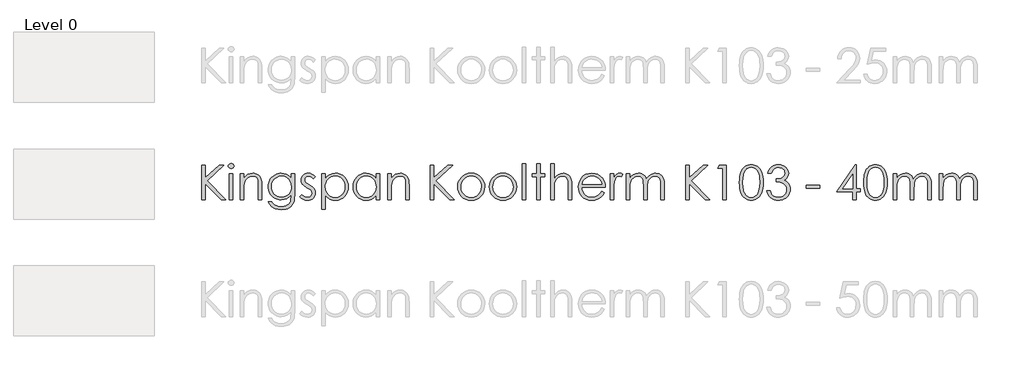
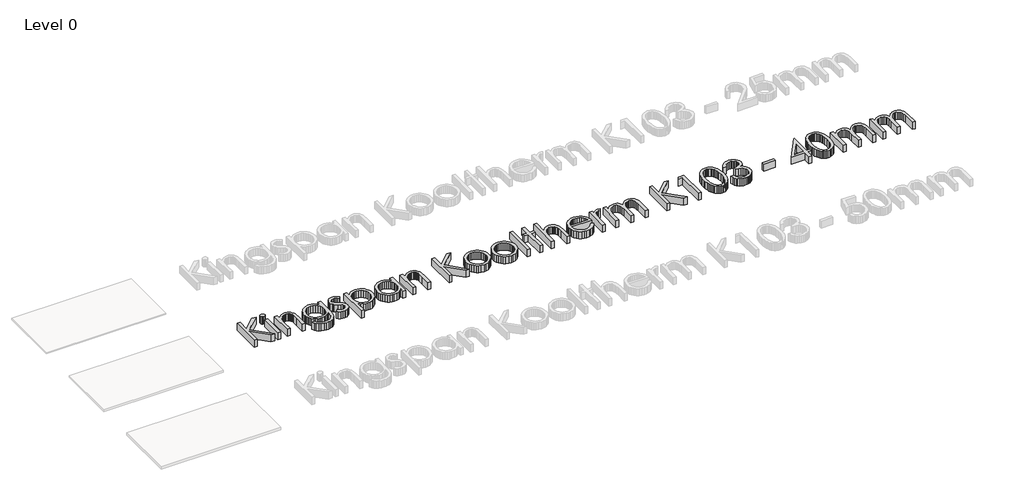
# One storey, part 12 of 13: 1 proxy.
"""IFC4 building model written with IfcOpenShell, lengths in millimetres."""

from ifc_helpers import new_model, si_unit, origin, origin_with_axes, place, context, project, spatial, polyline, outline, extrude, element, save

model = new_model("IFC4")

# Units and contexts
model_context = context("Model", 3, world=origin())
ifc_project = project(units=[si_unit("LENGTHUNIT", "METRE", prefix="MILLI")], contexts=[model_context])

# Site, building, storey
site = spatial("IfcSite", under=ifc_project)
building = spatial("IfcBuilding", under=site)
storey = spatial("IfcBuildingStorey", under=building, Name="Level 0", Elevation=0.0)

# Proxy
placement = place(None, origin())
element("IfcBuildingElementProxy", 1, Name="600mm KI_CenturyGothic", ObjectType="600mm KI_CenturyGothic", at=placement, inside=storey, context=model_context, shape_type="SweptSolid", body=[
    extrude(outline(polyline([(-3852.2663848, 3900.8965983), (-3792.944575, 3900.8965983), (-3792.944575, 3681.683973), (-3555.1938841, 3900.8965983), (-3471.6181051, 3900.8965983), (-3760.9664119, 3633.9484541), (-3441.9572002, 3307.6785001), (-3520.8984627, 3307.6785001), (-3792.944575, 3585.9039675), (-3792.944575, 3307.6785001), (-3852.2663848, 3307.6785001), (-3852.2663848, 3900.8965983)])), origin_with_axes(), (0.0, 0.0, 1.0), 150.0),
    extrude(outline(polyline([(-3348.1854852, 3930.5575033), (-3329.145347, 3927.2747208), (-3313.1176445, 3917.4263735), (-3302.226531, 3902.9821307), (-3298.5961598, 3885.911662), (-3302.226531, 3869.0729191), (-3313.1176445, 3854.7059183), (-3329.145347, 3844.857571), (-3348.1854852, 3841.5747885), (-3366.9938975, 3844.857571), (-3382.9443581, 3854.7059183), (-3393.8354717, 3869.0729191), (-3397.4658428, 3885.911662), (-3393.8354717, 3902.9821307), (-3382.9443581, 3917.4263735), (-3366.9938975, 3927.2747208), (-3348.1854852, 3930.5575033)])), origin_with_axes(), (0.0, 0.0, 1.0), 150.0),
    extrude(outline(polyline([(-3377.6919062, 3752.5920738), (-3318.3700964, 3752.5920738), (-3318.3700964, 3307.6785001), (-3377.6919062, 3307.6785001), (-3377.6919062, 3752.5920738)])), origin_with_axes(), (0.0, 0.0, 1.0), 150.0),
    extrude(outline(polyline([(-3189.8395084, 3752.5920738), (-3130.5176986, 3752.5920738), (-3130.5176986, 3673.4963274), (-3096.9946967, 3713.0055796), (-3060.0730495, 3740.696815), (-3019.7141359, 3757.0334853), (-2975.879335, 3762.4790421), (-2953.4357238, 3760.9004099), (-2932.2955704, 3756.1645135), (-2912.4588747, 3748.2713528), (-2893.9256368, 3737.2209277), (-2877.212412, 3723.4960006), (-2862.835756, 3707.5793333), (-2841.0921499, 3669.1707787), (-2833.6238199, 3644.7912914), (-2828.2892984, 3614.4448643), (-2824.0216812, 3535.8511905), (-2824.0216812, 3307.6785001), (-2883.343491, 3307.6785001), (-2883.343491, 3520.8662542), (-2883.343491, 3623.907002), (-2884.7290183, 3644.7043943), (-2889.8125035, 3662.7596977), (-2898.2849788, 3678.0729123), (-2910.1464442, 3690.644038), (-2924.7403432, 3700.4441091), (-2941.4101193, 3707.4441599), (-2980.977303, 3713.0442006), (-3005.3471351, 3710.8862539), (-3028.4038541, 3704.4124138), (-3050.1474602, 3693.6226803), (-3070.5779533, 3678.5170534), (-3088.6622225, 3660.2348518), (-3103.3671568, 3639.915394), (-3114.6927562, 3617.55868), (-3122.6390208, 3593.1647099), (-3128.5480292, 3546.0857475), (-3130.5176986, 3471.5858965), (-3130.5176986, 3307.6785001), (-3189.8395084, 3307.6785001), (-3189.8395084, 3752.5920738)])), origin_with_axes(), (0.0, 0.0, 1.0), 150.0),
    extrude(outline(polyline([(-2319.7862977, 3752.5920738), (-2260.4644879, 3752.5920738), (-2260.4644879, 3401.604699), (-2264.5196897, 3321.3503235), (-2269.588692, 3290.5500999), (-2276.6852953, 3265.9678526), (-2289.9371156, 3237.3545415), (-2307.2924139, 3212.2267729), (-2328.7511904, 3190.5845469), (-2354.3134448, 3172.4278634), (-2383.3226209, 3158.0656902), (-2415.122162, 3147.8069951), (-2449.7120682, 3141.651778), (-2487.0923395, 3139.6000389), (-2541.0458345, 3143.6166198), (-2589.206184, 3155.6663624), (-2630.260275, 3174.4940853), (-2662.8949946, 3198.8446068), (-2690.2000204, 3232.1938144), (-2715.2650299, 3278.0175952), (-2655.94322, 3278.0175952), (-2642.4355358, 3256.848476), (-2627.0933555, 3238.6048954), (-2609.9166791, 3223.2868532), (-2590.9055067, 3210.8943494), (-2569.7894914, 3201.3308318), (-2546.2982864, 3194.4997477), (-2492.1903075, 3189.0348805), (-2438.5071593, 3194.3645743), (-2415.083541, 3201.0266916), (-2393.93856, 3210.3536559), (-2359.6624492, 3234.3952097), (-2336.8567664, 3263.8823202), (-2329.3884364, 3282.5217658), (-2324.0539149, 3306.2302137), (-2319.7862977, 3368.8541165), (-2319.7862977, 3391.5632468), (-2354.757586, 3355.7809182), (-2396.6420279, 3329.3834852), (-2443.392712, 3313.1047464), (-2492.9627269, 3307.6785001), (-2522.4063889, 3309.5757553), (-2550.9521133, 3315.2675207), (-2578.5999001, 3324.7537964), (-2605.3497494, 3338.0345825), (-2630.1540674, 3354.5257366), (-2651.9652601, 3373.6431168), (-2670.7833277, 3395.3867228), (-2686.6082702, 3419.7565549), (-2699.1456025, 3446.0719183), (-2708.1008399, 3473.6521184), (-2713.4739824, 3502.4971553), (-2715.2650299, 3532.607029), (-2713.3967404, 3562.8955247), (-2707.7918722, 3592.1219437), (-2698.4504251, 3620.286286), (-2685.3723991, 3647.3885517), (-2668.9971079, 3672.5742517), (-2649.7638648, 3694.9888971), (-2627.67267, 3714.632488), (-2602.7235235, 3731.5050242), (-2575.9833294, 3745.056157), (-2548.5189922, 3754.7355376), (-2520.3305117, 3760.543166), (-2491.4178881, 3762.4790421), (-2444.5320306, 3757.5355579), (-2400.8903346, 3742.7051055), (-2359.6045177, 3716.1338782), (-2319.7862977, 3675.9680694), (-2319.7862977, 3752.5920738)]), holes=[polyline([(-2484.1571458, 3713.0442006), (-2529.0154023, 3707.0193293), (-2570.5908765, 3688.9447153), (-2606.2187212, 3660.2300242), (-2633.2340897, 3622.2849212), (-2650.2659375, 3578.0059792), (-2655.94322, 3530.2897708), (-2653.0080263, 3494.3770964), (-2644.2024452, 3461.7182387), (-2629.5264766, 3432.3131977), (-2608.9801206, 3406.1619734), (-2583.7606272, 3384.703197), (-2555.0652466, 3369.3754996), (-2522.8939786, 3360.1788811), (-2487.2468234, 3357.1133416), (-2451.3244937, 3360.154743), (-2419.1001219, 3369.2789472), (-2390.573708, 3384.4859541), (-2365.7452519, 3405.7757637), (-2345.6382095, 3432.0187128), (-2331.2760363, 3462.0851379), (-2322.6587323, 3495.975039), (-2319.7862977, 3533.6884162), (-2325.0773706, 3582.3894593), (-2340.9505892, 3625.6063246), (-2366.4983608, 3661.8327944), (-2400.8130926, 3689.5626508), (-2440.9982119, 3707.1738131), (-2484.1571458, 3713.0442006)])]), origin_with_axes(), (0.0, 0.0, 1.0), 150.0),
    extrude(outline(polyline([(-1904.5336289, 3701.3034257), (-1940.9918246, 3663.609359), (-1962.9575012, 3685.2371022), (-1984.6721416, 3700.6854902), (-2006.1357456, 3709.954523), (-2027.3483133, 3713.0442006), (-2052.181597, 3708.3710632), (-2073.2300256, 3694.3516511), (-2087.5970264, 3674.1142629), (-2092.3860267, 3650.787197), (-2088.4466878, 3629.2366958), (-2076.628671, 3608.7675817), (-2052.0657341, 3586.599145), (-2010.2006027, 3560.877579), (-1958.3326401, 3528.0111336), (-1939.8428507, 3512.1861912), (-1926.315856, 3496.7667689), (-1909.9791857, 3464.0934284), (-1904.5336289, 3427.5579908), (-1906.9474396, 3401.4115941), (-1914.1888714, 3377.3507299), (-1926.2579245, 3355.375398), (-1943.1545989, 3335.4855985), (-1963.6719892, 3318.9944443), (-1986.6031901, 3307.2150485), (-2011.9482016, 3300.147411), (-2039.7070237, 3297.7915318), (-2077.4397114, 3301.6729393), (-2113.3958344, 3313.3171617), (-2145.4512394, 3331.7972958), (-2171.4817731, 3356.1864383), (-2135.7959969, 3396.6612148), (-2114.0041146, 3375.0334717), (-2091.5749863, 3359.5850837), (-2068.5086121, 3350.3160509), (-2044.8049918, 3347.2263733), (-2013.637869, 3352.8650349), (-1987.4914724, 3369.7810198), (-1969.7644472, 3394.3439566), (-1963.8554388, 3422.9234744), (-1967.7561567, 3446.7139919), (-1979.4583106, 3467.7237995), (-2005.0253927, 3489.4287846), (-2050.2119275, 3516.2317378), (-2099.762632, 3546.8967879), (-2117.441381, 3562.0555186), (-2130.3890611, 3577.0983864), (-2146.3781427, 3609.2310334), (-2151.7078365, 3645.689229), (-2149.5305794, 3669.7356104), (-2142.9988078, 3691.6674937), (-2132.1125219, 3711.4848789), (-2116.8717217, 3729.187766), (-2098.309518, 3743.7526993), (-2077.4590218, 3754.1562231), (-2054.3202332, 3760.3983373), (-2028.8931521, 3762.4790421), (-1997.9481, 3758.6555661), (-1966.9064954, 3747.185138), (-1935.7683384, 3728.0677579), (-1904.5336289, 3701.3034257)])), origin_with_axes(), (0.0, 0.0, 1.0), 150.0),
    extrude(outline(polyline([(-1795.7769776, 3752.5920738), (-1736.4551678, 3752.5920738), (-1736.4551678, 3671.4880369), (-1700.9238754, 3711.7310876), (-1660.4490989, 3740.0788795), (-1614.9922173, 3756.8790014), (-1564.5146096, 3762.4790421), (-1520.0618732, 3758.2403906), (-1478.9305402, 3745.5244363), (-1441.1206107, 3724.331179), (-1406.6320845, 3694.6606189), (-1377.9077381, 3659.0231189), (-1357.3903478, 3619.929042), (-1345.0799137, 3577.3783884), (-1340.9764356, 3531.371158), (-1345.0412927, 3484.4708176), (-1357.235864, 3441.2491246), (-1377.5601494, 3401.706079), (-1406.014149, 3365.8416808), (-1440.2130179, 3336.0697406), (-1477.7719111, 3314.8040691), (-1518.6908288, 3302.0446661), (-1562.9697708, 3297.7915318), (-1612.6170277, 3303.256399), (-1658.0545988, 3319.6510008), (-1699.3211052, 3346.8980951), (-1736.4551678, 3384.92044), (-1736.4551678, 3149.4870072), (-1795.7769776, 3149.4870072), (-1795.7769776, 3752.5920738)]), holes=[polyline([(-1568.5311905, 3713.0442006), (-1602.5852307, 3709.7469353), (-1633.8392507, 3699.8551393), (-1662.2932503, 3683.3688128), (-1687.9472295, 3660.2879556), (-1709.1694525, 3632.3022353), (-1724.3281832, 3601.1013192), (-1733.4234216, 3566.6852074), (-1736.4551678, 3529.0538998), (-1731.048232, 3480.1983728), (-1714.8274246, 3436.5180558), (-1688.5265441, 3399.6736505), (-1652.8793888, 3371.3258586), (-1611.4390881, 3353.2512446), (-1567.7587711, 3347.2263733), (-1525.0632888, 3353.2898656), (-1485.0326535, 3371.4803424), (-1450.2544701, 3400.5812433), (-1423.3163435, 3439.3760076), (-1406.05277, 3484.0411593), (-1400.2982454, 3530.7532225), (-1405.9948385, 3577.6970114), (-1423.0846177, 3622.1304373), (-1449.8103289, 3660.4810605), (-1484.414718, 3689.1764411), (-1524.7157001, 3707.0772607), (-1568.5311905, 3713.0442006)])]), origin_with_axes(), (0.0, 0.0, 1.0), 150.0),
    extrude(outline(polyline([(-807.0801472, 3752.5920738), (-807.0801472, 3307.6785001), (-866.401957, 3307.6785001), (-866.401957, 3383.5300851), (-903.4780882, 3345.6815345), (-944.8797679, 3318.9558233), (-990.4525125, 3303.0826047), (-1040.0418379, 3297.7915318), (-1084.3159523, 3302.0446661), (-1125.2203871, 3314.8040691), (-1162.7551422, 3336.0697406), (-1196.9202178, 3365.8416808), (-1225.340424, 3401.706079), (-1245.6405713, 3441.2491246), (-1257.8206597, 3484.4708176), (-1261.8806892, 3531.371158), (-1257.7820388, 3577.3783884), (-1245.4860875, 3619.929042), (-1224.9928353, 3659.0231189), (-1196.3022822, 3694.6606189), (-1161.8475494, 3724.331179), (-1124.061758, 3745.5244363), (-1082.9449079, 3758.2403906), (-1038.4969991, 3762.4790421), (-987.7490446, 3756.8790014), (-942.0990581, 3740.0788795), (-921.2051134, 3727.3918909), (-901.6242816, 3711.7310876), (-866.401957, 3671.4880369), (-866.401957, 3752.5920738), (-807.0801472, 3752.5920738)]), holes=[polyline([(-1034.3259343, 3713.0442006), (-1078.1414247, 3707.0772607), (-1118.4424068, 3689.1764411), (-1153.0467959, 3660.4810605), (-1179.7725071, 3622.1304373), (-1196.8622863, 3577.6970114), (-1202.5588794, 3530.7532225), (-1196.8043548, 3484.0411593), (-1179.5407813, 3439.3760076), (-1152.6026548, 3400.5812433), (-1117.8244713, 3371.4803424), (-1077.6779731, 3353.2898656), (-1034.6349021, 3347.2263733), (-991.0125165, 3353.2512446), (-949.7460102, 3371.3258586), (-914.2726493, 3399.6736505), (-888.0297002, 3436.5180558), (-871.8088928, 3480.1983728), (-866.401957, 3529.0538998), (-869.4337032, 3566.6852074), (-878.5289416, 3601.1013192), (-893.6876723, 3632.3022353), (-914.9098953, 3660.2879556), (-940.5638746, 3683.3688128), (-969.0178742, 3699.8551393), (-1000.2718941, 3709.7469353), (-1034.3259343, 3713.0442006)])]), origin_with_axes(), (0.0, 0.0, 1.0), 150.0),
    extrude(outline(polyline([(-668.662591, 3752.5920738), (-609.3407811, 3752.5920738), (-609.3407811, 3673.4963274), (-575.8177792, 3713.0055796), (-538.896132, 3740.696815), (-498.5372184, 3757.0334853), (-454.7024175, 3762.4790421), (-432.2588064, 3760.9004099), (-411.1186529, 3756.1645135), (-391.2819572, 3748.2713528), (-372.7487193, 3737.2209277), (-356.0354946, 3723.4960006), (-341.6588385, 3707.5793333), (-319.9152324, 3669.1707787), (-312.4469024, 3644.7912914), (-307.1123809, 3614.4448643), (-302.8447637, 3535.8511905), (-302.8447637, 3307.6785001), (-362.1665735, 3307.6785001), (-362.1665735, 3520.8662542), (-362.1665735, 3623.907002), (-363.5521008, 3644.7043943), (-368.635586, 3662.7596977), (-377.1080613, 3678.0729123), (-388.9695267, 3690.644038), (-403.5634257, 3700.4441091), (-420.2332018, 3707.4441599), (-459.8003855, 3713.0442006), (-484.1702176, 3710.8862539), (-507.2269366, 3704.4124138), (-528.9705427, 3693.6226803), (-549.4010358, 3678.5170534), (-567.485305, 3660.2348518), (-582.1902393, 3639.915394), (-593.5158387, 3617.55868), (-601.4621033, 3593.1647099), (-607.3711117, 3546.0857475), (-609.3407811, 3471.5858965), (-609.3407811, 3307.6785001), (-668.662591, 3307.6785001), (-668.662591, 3752.5920738)])), origin_with_axes(), (0.0, 0.0, 1.0), 150.0),
    extrude(outline(polyline([(62.9730635, 3900.8965983), (122.2948734, 3900.8965983), (122.2948734, 3681.683973), (360.0455643, 3900.8965983), (443.6213432, 3900.8965983), (154.2730365, 3633.9484541), (473.2822481, 3307.6785001), (394.3409856, 3307.6785001), (122.2948734, 3585.9039675), (122.2948734, 3307.6785001), (62.9730635, 3307.6785001), (62.9730635, 3900.8965983)])), origin_with_axes(), (0.0, 0.0, 1.0), 150.0),
    extrude(outline(polyline([(760.1588128, 3762.4790421), (809.4681362, 3757.8541809), (854.3553585, 3743.9795975), (894.8204798, 3720.8552917), (930.8635, 3688.4812637), (957.7630055, 3653.2492839), (976.9769381, 3614.908316), (988.5052976, 3573.45836), (992.3480841, 3528.8994159), (988.283227, 3484.0846079), (976.0886558, 3442.1760279), (955.7643703, 3403.1736759), (927.3103707, 3367.0775519), (892.4742558, 3336.7649181), (853.0036246, 3315.1130368), (808.8984769, 3302.1219081), (760.1588128, 3297.7915318), (711.2839754, 3302.1219081), (667.0822753, 3315.1130368), (627.5537126, 3336.7649181), (592.6982872, 3367.0775519), (564.2442876, 3403.1736759), (543.9200022, 3442.1760279), (531.7254309, 3484.0846079), (527.6605738, 3528.8994159), (531.5033603, 3573.2652551), (543.0317198, 3614.5993482), (562.2456524, 3652.9016951), (589.145158, 3688.1722959), (625.2074886, 3720.6814974), (665.7305413, 3743.9023555), (710.7143161, 3757.8348705), (760.1588128, 3762.4790421)]), holes=[polyline([(760.004329, 3713.0442006), (725.7282181, 3709.6696933), (693.9624704, 3699.5461716), (664.7070856, 3682.6736353), (637.962064, 3659.0520846), (615.6584538, 3630.6415336), (599.7273037, 3599.4019965), (590.1686137, 3565.3334734), (586.9823836, 3528.4359643), (592.7948396, 3480.7004454), (610.2322075, 3436.3635719), (637.5758543, 3398.5729529), (673.1071466, 3370.4761972), (714.6439998, 3353.0388293), (760.004329, 3347.2263733), (805.3646581, 3353.0388293), (846.9015113, 3370.4761972), (882.4328037, 3398.5729529), (909.7764504, 3436.3635719), (927.2138183, 3480.7004454), (933.0262743, 3528.4359643), (929.8255614, 3565.3334734), (920.2234227, 3599.4019965), (904.2198583, 3630.6415336), (881.8148681, 3659.0520846), (854.9974321, 3682.6736353), (825.7565303, 3699.5461716), (794.0921625, 3709.6696933), (760.004329, 3713.0442006)])]), origin_with_axes(), (0.0, 0.0, 1.0), 150.0),
    extrude(outline(polyline([(1303.9420695, 3762.4790421), (1353.2513929, 3757.8541809), (1398.1386152, 3743.9795975), (1438.6037365, 3720.8552917), (1474.6467567, 3688.4812637), (1501.5462622, 3653.2492839), (1520.7601948, 3614.908316), (1532.2885543, 3573.45836), (1536.1313408, 3528.8994159), (1532.0664837, 3484.0846079), (1519.8719125, 3442.1760279), (1499.547627, 3403.1736759), (1471.0936274, 3367.0775519), (1436.2575126, 3336.7649181), (1396.7868813, 3315.1130368), (1352.6817336, 3302.1219081), (1303.9420695, 3297.7915318), (1255.0672321, 3302.1219081), (1210.865532, 3315.1130368), (1171.3369693, 3336.7649181), (1136.4815439, 3367.0775519), (1108.0275443, 3403.1736759), (1087.7032589, 3442.1760279), (1075.5086876, 3484.0846079), (1071.4438305, 3528.8994159), (1075.286617, 3573.2652551), (1086.8149766, 3614.5993482), (1106.0289091, 3652.9016951), (1132.9284147, 3688.1722959), (1168.9907453, 3720.6814974), (1209.5137981, 3743.9023555), (1254.4975728, 3757.8348705), (1303.9420695, 3762.4790421)]), holes=[polyline([(1303.7875857, 3713.0442006), (1269.5114748, 3709.6696933), (1237.7457271, 3699.5461716), (1208.4903423, 3682.6736353), (1181.7453207, 3659.0520846), (1159.4417105, 3630.6415336), (1143.5105604, 3599.4019965), (1133.9518704, 3565.3334734), (1130.7656404, 3528.4359643), (1136.5780963, 3480.7004454), (1154.0154643, 3436.3635719), (1181.359111, 3398.5729529), (1216.8904033, 3370.4761972), (1258.4272565, 3353.0388293), (1303.7875857, 3347.2263733), (1349.1479149, 3353.0388293), (1390.684768, 3370.4761972), (1426.2160604, 3398.5729529), (1453.5597071, 3436.3635719), (1470.997075, 3480.7004454), (1476.809531, 3528.4359643), (1473.6088181, 3565.3334734), (1464.0066795, 3599.4019965), (1448.003115, 3630.6415336), (1425.5981249, 3659.0520846), (1398.7806889, 3682.6736353), (1369.539787, 3699.5461716), (1337.8754193, 3709.6696933), (1303.7875857, 3713.0442006)])]), origin_with_axes(), (0.0, 0.0, 1.0), 150.0),
    extrude(outline(polyline([(1635.0010238, 3920.6705349), (1694.3228337, 3920.6705349), (1694.3228337, 3307.6785001), (1635.0010238, 3307.6785001), (1635.0010238, 3920.6705349)])), origin_with_axes(), (0.0, 0.0, 1.0), 150.0),
    extrude(outline(polyline([(1882.1752314, 3920.6705349), (1941.4970413, 3920.6705349), (1941.4970413, 3752.5920738), (2020.5927877, 3752.5920738), (2020.5927877, 3703.1572323), (1941.4970413, 3703.1572323), (1941.4970413, 3307.6785001), (1882.1752314, 3307.6785001), (1882.1752314, 3703.1572323), (1803.079485, 3703.1572323), (1803.079485, 3752.5920738), (1882.1752314, 3752.5920738), (1882.1752314, 3920.6705349)])), origin_with_axes(), (0.0, 0.0, 1.0), 150.0),
    extrude(outline(polyline([(2119.4624707, 3920.6705349), (2178.7842806, 3920.6705349), (2178.7842806, 3671.9514886), (2212.5583188, 3711.6538456), (2249.6151394, 3739.9243956), (2289.9161216, 3756.8403805), (2333.4226442, 3762.4790421), (2355.8662553, 3760.9004099), (2377.0064088, 3756.1645135), (2396.8431044, 3748.2713528), (2415.3763424, 3737.2209277), (2432.0895671, 3723.5104834), (2446.4662232, 3707.6372648), (2468.2098293, 3669.4025045), (2475.6781593, 3645.0954316), (2481.0126808, 3614.7345216), (2485.280298, 3535.8511905), (2485.280298, 3307.6785001), (2425.9584882, 3307.6785001), (2425.9584882, 3520.8662542), (2424.5681332, 3585.247411), (2420.3970685, 3623.907002), (2406.879729, 3662.7596977), (2397.1665551, 3678.0729123), (2385.4837117, 3690.644038), (2371.840854, 3700.4441091), (2356.2476374, 3707.4441599), (2319.2101273, 3713.0442006), (2296.3416854, 3710.8862539), (2274.6994594, 3704.4124138), (2254.2834492, 3693.6226803), (2235.0936547, 3678.5170534), (2218.1052556, 3660.2348518), (2204.2934312, 3639.915394), (2193.6581816, 3617.55868), (2186.1995068, 3593.1647099), (2180.6380871, 3546.3174733), (2178.7842806, 3471.5858965), (2178.7842806, 3307.6785001), (2119.4624707, 3307.6785001), (2119.4624707, 3920.6705349)])), origin_with_axes(), (0.0, 0.0, 1.0), 150.0),
    extrude(outline(polyline([(2991.0605203, 3455.9830247), (3038.950523, 3430.8021523), (3013.3255094, 3388.9177104), (2984.0315038, 3355.9547125), (2950.952643, 3330.8703926), (2913.9730643, 3312.6219843), (2872.4941426, 3301.4991449), (2825.9172528, 3297.7915318), (2774.4258447, 3302.2232881), (2728.8627554, 3315.518557), (2689.227985, 3337.6773385), (2655.5215335, 3368.6996326), (2628.6220279, 3405.3026569), (2609.4080954, 3444.2036288), (2597.8797358, 3485.4025485), (2594.0369493, 3528.8994159), (2597.3197318, 3569.7797126), (2607.1680791, 3608.381372), (2623.5819913, 3644.7043943), (2646.5614684, 3678.7487793), (2682.7493173, 3715.3807692), (2724.5758277, 3741.5464764), (2772.0409998, 3757.2459007), (2825.1448334, 3762.4790421), (2879.7935059, 3757.1107273), (2928.6490329, 3741.0057828), (2971.7114143, 3714.1642087), (3008.9806503, 3676.5860049), (3030.4539096, 3644.414737), (3045.9022976, 3608.458614), (3055.3258143, 3568.7176359), (3058.7244596, 3525.1918028), (2653.3587591, 3525.1918028), (2657.095338, 3487.9370497), (2666.6057518, 3454.1871496), (2681.8900007, 3423.9421025), (2702.9480845, 3397.2019084), (2728.3124066, 3375.3376118), (2756.5153699, 3359.7202571), (2787.5569744, 3350.3498443), (2821.4372203, 3347.2263733), (2854.9602222, 3350.238809), (2887.5563208, 3359.2761159), (2917.2944677, 3373.3148385), (2942.2436143, 3391.331521), (2965.725164, 3417.4972281), (2991.0605203, 3455.9830247)]), holes=[polyline([(2999.4026498, 3574.6266443), (2984.9777175, 3617.1483322), (2965.1844704, 3650.1692615), (2939.0766947, 3675.6977226), (2905.7081767, 3695.742006), (2867.7630738, 3708.7186519), (2827.9255433, 3713.0442006), (2795.503239, 3710.3310774), (2765.4368139, 3702.191708), (2737.726268, 3688.6260923), (2712.3716012, 3669.6342304), (2695.8321708, 3651.820308), (2681.4362043, 3630.0477362), (2669.1837016, 3604.316515), (2659.0746627, 3574.6266443), (2999.4026498, 3574.6266443)])]), origin_with_axes(), (0.0, 0.0, 1.0), 150.0),
    extrude(outline(polyline([(3137.820206, 3752.5920738), (3197.1420159, 3752.5920738), (3197.1420159, 3688.1722959), (3222.6897875, 3721.2125357), (3249.589293, 3744.3271862), (3277.7632906, 3757.9410781), (3307.1345382, 3762.4790421), (3330.4616041, 3758.694187), (3355.3335087, 3747.3396219), (3325.8270877, 3705.3200066), (3297.2475699, 3713.0442006), (3270.8308265, 3707.0965712), (3245.3409863, 3689.2536831), (3223.2884125, 3658.8976007), (3207.183468, 3615.4103886), (3199.6523789, 3557.2858288), (3197.1420159, 3459.8451217), (3197.1420159, 3307.6785001), (3137.820206, 3307.6785001), (3137.820206, 3752.5920738)])), origin_with_axes(), (0.0, 0.0, 1.0), 150.0),
    extrude(outline(polyline([(3414.6553185, 3752.5920738), (3473.9771284, 3752.5920738), (3473.9771284, 3676.4315211), (3503.5607913, 3712.9283377), (3533.9168737, 3738.0705891), (3577.3268439, 3756.3769288), (3622.8995884, 3762.4790421), (3653.7384329, 3759.331433), (3682.9165757, 3749.8886059), (3708.6767627, 3735.2126373), (3729.2617397, 3716.365604), (3746.0425511, 3690.9336953), (3760.3902414, 3656.5031006), (3775.16759, 3680.9018983), (3791.6925376, 3702.191708), (3809.965084, 3720.3725296), (3829.9852293, 3735.4443631), (3851.2798666, 3747.2720352), (3873.375889, 3755.7203723), (3896.2732965, 3760.7893747), (3919.9720892, 3762.4790421), (3962.3006723, 3756.6665861), (3981.4952943, 3749.4010161), (3999.3768034, 3739.2292182), (4015.4914031, 3726.46016), (4029.385297, 3711.4028093), (4050.5109676, 3674.4232306), (4057.8103309, 3651.0478886), (4063.0241619, 3622.4780261), (4067.1952266, 3549.7547397), (4067.1952266, 3307.6785001), (4007.8734168, 3307.6785001), (4007.8734168, 3553.3078689), (4005.4209852, 3614.4255538), (3998.0636904, 3652.8727294), (3984.7587663, 3677.3391139), (3964.4634466, 3696.5144254), (3938.3942919, 3708.9117568), (3907.7678627, 3713.0442006), (3888.1194443, 3711.4945341), (3869.3399976, 3706.8455349), (3834.3880198, 3688.2495379), (3805.6540182, 3659.3031209), (3785.8800816, 3622.0531954), (3779.1889985, 3597.8957787), (3774.4096535, 3566.8252084), (3770.5861775, 3483.9446069), (3770.5861775, 3307.6785001), (3711.2643677, 3307.6785001), (3711.2643677, 3538.0139648), (3708.850557, 3606.469634), (3701.6091252, 3648.7016647), (3688.3621325, 3674.9446137), (3667.9316394, 3695.4330383), (3641.6114484, 3708.64141), (3610.6953619, 3713.0442006), (3573.7544042, 3707.0000188), (3539.2465676, 3688.8674734), (3510.2808401, 3660.500371), (3489.9662099, 3623.7525181), (3477.9743988, 3571.9231764), (3473.9771284, 3498.3116077), (3473.9771284, 3307.6785001), (3414.6553185, 3307.6785001), (3414.6553185, 3752.5920738)])), origin_with_axes(), (0.0, 0.0, 1.0), 150.0),
    extrude(outline(polyline([(4433.0130538, 3900.8965983), (4492.3348637, 3900.8965983), (4492.3348637, 3681.683973), (4730.0855546, 3900.8965983), (4813.6613335, 3900.8965983), (4524.3130268, 3633.9484541), (4843.3222385, 3307.6785001), (4764.3809759, 3307.6785001), (4492.3348637, 3585.9039675), (4492.3348637, 3307.6785001), (4433.0130538, 3307.6785001), (4433.0130538, 3900.8965983)])), origin_with_axes(), (0.0, 0.0, 1.0), 150.0),
    extrude(outline(polyline([(5010.6282802, 3900.8965983), (5125.1008351, 3900.8965983), (5125.1008351, 3307.6785001), (5065.7790253, 3307.6785001), (5065.7790253, 3851.4617568), (4976.7963106, 3851.4617568), (5010.6282802, 3900.8965983)])), origin_with_axes(), (0.0, 0.0, 1.0), 150.0),
    extrude(outline(polyline([(5352.5011061, 3604.1330653), (5354.0797383, 3658.5644948), (5358.8156347, 3706.4593252), (5366.7087954, 3747.8175564), (5377.7592204, 3782.6391884), (5391.6869077, 3812.2807828), (5408.2118552, 3838.0989012), (5427.334063, 3860.0935436), (5449.053531, 3878.26471), (5472.747496, 3892.4917098), (5497.793195, 3902.6538525), (5524.190628, 3908.7511381), (5551.9397949, 3910.7835666), (5580.1427582, 3908.7366552), (5606.974677, 3902.595921), (5632.4355515, 3892.361364), (5656.5253815, 3878.0329841), (5678.7083011, 3859.6156091), (5698.4484443, 3837.1140665), (5715.7458112, 3810.5283563), (5730.6004018, 3779.8584786), (5742.5294539, 3744.3416691), (5751.0502054, 3703.2151637), (5756.1626563, 3656.4789625), (5757.8668066, 3604.1330653), (5756.1867944, 3551.9464797), (5751.1467578, 3505.3792452), (5742.7466968, 3464.4313618), (5730.9866115, 3429.1028296), (5716.2768496, 3398.5777805), (5699.0277589, 3372.0403465), (5679.2393394, 3349.4905277), (5656.9115912, 3330.928324), (5632.6527944, 3316.4309774), (5607.0712295, 3306.0757299), (5580.1668963, 3299.8625813), (5551.9397949, 3297.7915318), (5524.2147661, 3299.7998222), (5497.8897474, 3305.8246936), (5472.964739, 3315.8661457), (5449.4397407, 3329.9241788), (5427.8651013, 3347.9601718), (5408.7911698, 3369.9355036), (5392.2179461, 3395.8501745), (5378.1454301, 3425.7041842), (5366.9260384, 3460.7237487), (5358.9121871, 3502.1350837), (5354.1038764, 3549.9381893), (5352.5011061, 3604.1330653)]), holes=[polyline([(5411.8229159, 3604.2875492), (5416.206396, 3515.961391), (5421.6857461, 3480.9804475), (5429.3568363, 3452.1209277), (5439.1713903, 3427.8814414), (5451.0811319, 3406.7605985), (5465.0860611, 3388.7583989), (5481.1861779, 3373.8748426), (5516.4857445, 3353.8884906), (5534.8886366, 3348.8919027), (5553.7936014, 3347.2263733), (5572.7854634, 3348.8581093), (5591.1400794, 3353.7533172), (5625.9375733, 3373.334149), (5641.694929, 3388.0101176), (5655.4439943, 3405.9302476), (5667.1847692, 3427.0945392), (5676.9172536, 3451.5029922), (5686.3793912, 3484.8618549), (5693.138061, 3521.4455687), (5698.5449967, 3604.2875492), (5693.7173755, 3685.8936587), (5687.682849, 3720.5849449), (5679.2345118, 3751.2017189), (5668.652366, 3777.864671), (5656.2164137, 3800.6944918), (5641.9266548, 3819.6911814), (5625.7830894, 3834.8547397), (5590.7152487, 3854.7252288), (5572.4861509, 3859.692851), (5553.7936014, 3861.3487251), (5534.7776014, 3859.692851), (5516.3505711, 3854.7252288), (5481.2634199, 3834.8547397), (5465.3177869, 3820.0435978), (5451.3900996, 3802.1041572), (5439.480358, 3781.0364181), (5429.5885621, 3756.8403805), (5421.8160919, 3727.9856883), (5416.2643275, 3692.9419857), (5411.8229159, 3604.2875492)])]), origin_with_axes(), (0.0, 0.0, 1.0), 150.0),
    extrude(outline(polyline([(5896.2843628, 3762.4790421), (5836.962553, 3762.4790421), (5847.4867673, 3796.1082517), (5861.9116996, 3825.6243279), (5880.2373498, 3851.0272709), (5902.463718, 3872.3170806), (5927.7314876, 3889.1461682), (5955.181342, 3901.1669451), (5984.8132812, 3908.3794113), (6016.6273051, 3910.7835666), (6062.9145376, 3905.6276672), (6105.9962296, 3890.1599687), (6142.7827034, 3865.9446205), (6170.1842816, 3834.545772), (6187.2161294, 3798.7634433), (6192.8934119, 3761.3976549), (6188.2106193, 3725.962915), (6174.1622415, 3694.4288931), (6150.7482785, 3666.7955891), (6117.9687303, 3643.063003), (6155.3538292, 3621.8987115), (6185.3237018, 3592.7012582), (6201.6120959, 3568.601773), (6213.2466631, 3543.1119328), (6220.2274034, 3516.2317378), (6222.5543169, 3487.9611878), (6220.8549942, 3463.2968708), (6215.7570261, 3439.2022132), (6207.2604128, 3415.6772149), (6195.365154, 3392.7218759), (6180.5347016, 3371.3355138), (6163.232507, 3352.5174462), (6143.4585704, 3336.2676731), (6121.2128917, 3322.5861945), (6097.0361646, 3311.7385296), (6071.4690825, 3303.9901975), (6044.5116454, 3299.3411982), (6016.1638535, 3297.7915318), (5978.6290984, 3300.4612064), (5944.3481599, 3308.47023), (5913.3210382, 3321.8186027), (5885.5477332, 3340.5063246), (5861.6654909, 3364.3596011), (5842.3115573, 3393.204638), (5827.4859325, 3427.0414353), (5817.1886164, 3465.869993), (5876.5104262, 3465.869993), (5895.5505644, 3415.1220385), (5907.6485832, 3395.830864), (5921.4652352, 3380.5948913), (5941.5288291, 3365.9961647), (5964.180028, 3355.5685028), (5989.4188318, 3349.3119057), (6017.2452407, 3347.2263733), (6048.6054683, 3349.7222535), (6076.7215344, 3357.2098941), (6101.593439, 3369.689295), (6123.2211822, 3387.1604562), (6140.7261368, 3407.9819867), (6153.2296758, 3430.512495), (6160.7317992, 3454.7519812), (6163.232507, 3480.7004454), (6158.2310914, 3515.2662135), (6143.2268446, 3547.5919654), (6119.8032263, 3574.9549226), (6089.5436964, 3594.6323067), (6046.6357988, 3607.4351583), (5985.2670776, 3614.1745175), (5985.2670776, 3663.609359), (6027.1515195, 3667.2590407), (6065.0580014, 3678.2080857), (6096.0706403, 3694.7957923), (6117.2735528, 3715.3614588), (6129.4970898, 3738.9202504), (6133.5716021, 3764.4873325), (6131.5102078, 3783.5178155), (6125.326025, 3801.2158749), (6115.0190537, 3817.5815109), (6100.5892938, 3832.6147235), (6083.0119248, 3845.1858492), (6063.2621263, 3854.1652247), (6041.3398983, 3859.55285), (6017.2452407, 3861.3487251), (5979.2228958, 3855.729374), (5946.7233496, 3838.8713206), (5932.4191078, 3825.6677765), (5919.2445295, 3808.5345487), (5896.2843628, 3762.4790421)])), origin_with_axes(), (0.0, 0.0, 1.0), 150.0),
    extrude(outline(polyline([(6499.3894294, 3554.8527077), (6726.7897004, 3554.8527077), (6726.7897004, 3505.4178662), (6499.3894294, 3505.4178662), (6499.3894294, 3554.8527077)])), origin_with_axes(), (0.0, 0.0, 1.0), 150.0),
    extrude(outline(polyline([(7337.6189609, 3910.7835666), (7349.6687035, 3910.7835666), (7349.6687035, 3495.5308979), (7418.8774816, 3495.5308979), (7418.8774816, 3446.0960564), (7349.6687035, 3446.0960564), (7349.6687035, 3307.6785001), (7290.3468937, 3307.6785001), (7290.3468937, 3446.0960564), (7013.5117812, 3446.0960564), (7337.6189609, 3910.7835666)]), holes=[polyline([(7290.3468937, 3495.5308979), (7290.3468937, 3742.7051055), (7118.0973678, 3495.5308979), (7290.3468937, 3495.5308979)])]), origin_with_axes(), (0.0, 0.0, 1.0), 150.0),
    extrude(outline(polyline([(7478.1992914, 3604.1330653), (7479.7779236, 3658.5644948), (7484.51382, 3706.4593252), (7492.4069808, 3747.8175564), (7503.4574058, 3782.6391884), (7517.3850931, 3812.2807828), (7533.9100406, 3838.0989012), (7553.0322483, 3860.0935436), (7574.7517163, 3878.26471), (7598.4456813, 3892.4917098), (7623.4913804, 3902.6538525), (7649.8888133, 3908.7511381), (7677.6379802, 3910.7835666), (7705.8409435, 3908.7366552), (7732.6728624, 3902.595921), (7758.1337368, 3892.361364), (7782.2235668, 3878.0329841), (7804.4064864, 3859.6156091), (7824.1466297, 3837.1140665), (7841.4439966, 3810.5283563), (7856.2985871, 3779.8584786), (7868.2276392, 3744.3416691), (7876.7483907, 3703.2151637), (7881.8608416, 3656.4789625), (7883.5649919, 3604.1330653), (7881.8849797, 3551.9464797), (7876.8449431, 3505.3792452), (7868.4448822, 3464.4313618), (7856.6847968, 3429.1028296), (7841.9750349, 3398.5777805), (7824.7259442, 3372.0403465), (7804.9375247, 3349.4905277), (7782.6097765, 3330.928324), (7758.3509797, 3316.4309774), (7732.7694148, 3306.0757299), (7705.8650816, 3299.8625813), (7677.6379802, 3297.7915318), (7649.9129514, 3299.7998222), (7623.5879328, 3305.8246936), (7598.6629243, 3315.8661457), (7575.137926, 3329.9241788), (7553.5632867, 3347.9601718), (7534.4893551, 3369.9355036), (7517.9161314, 3395.8501745), (7503.8436155, 3425.7041842), (7492.6242237, 3460.7237487), (7484.6103725, 3502.1350837), (7479.8020617, 3549.9381893), (7478.1992914, 3604.1330653)]), holes=[polyline([(7537.5211013, 3604.2875492), (7541.9045814, 3515.961391), (7547.3839315, 3480.9804475), (7555.0550216, 3452.1209277), (7564.8695756, 3427.8814414), (7576.7793172, 3406.7605985), (7590.7842464, 3388.7583989), (7606.8843633, 3373.8748426), (7642.1839298, 3353.8884906), (7660.586822, 3348.8919027), (7679.4917868, 3347.2263733), (7698.4836487, 3348.8581093), (7716.8382647, 3353.7533172), (7751.6357586, 3373.334149), (7767.3931143, 3388.0101176), (7781.1421796, 3405.9302476), (7792.8829545, 3427.0945392), (7802.6154389, 3451.5029922), (7812.0775766, 3484.8618549), (7818.8362463, 3521.4455687), (7824.2431821, 3604.2875492), (7819.4155608, 3685.8936587), (7813.3810343, 3720.5849449), (7804.9326971, 3751.2017189), (7794.3505514, 3777.864671), (7781.914599, 3800.6944918), (7767.6248402, 3819.6911814), (7751.4812747, 3834.8547397), (7716.413434, 3854.7252288), (7698.1843362, 3859.692851), (7679.4917868, 3861.3487251), (7660.4757867, 3859.692851), (7642.0487564, 3854.7252288), (7606.9616052, 3834.8547397), (7591.0159723, 3820.0435978), (7577.088285, 3802.1041572), (7565.1785434, 3781.0364181), (7555.2867474, 3756.8403805), (7547.5142772, 3727.9856883), (7541.9625128, 3692.9419857), (7537.5211013, 3604.2875492)])]), origin_with_axes(), (0.0, 0.0, 1.0), 150.0),
    extrude(outline(polyline([(7982.4346749, 3752.5920738), (8041.7564848, 3752.5920738), (8041.7564848, 3676.4315211), (8071.3401477, 3712.9283377), (8101.6962301, 3738.0705891), (8145.1062003, 3756.3769288), (8190.6789448, 3762.4790421), (8221.5177893, 3759.331433), (8250.6959321, 3749.8886059), (8276.4561191, 3735.2126373), (8297.0410961, 3716.365604), (8313.8219075, 3690.9336953), (8328.1695978, 3656.5031006), (8342.9469464, 3680.9018983), (8359.471894, 3702.191708), (8377.7444404, 3720.3725296), (8397.7645856, 3735.4443631), (8419.0592229, 3747.2720352), (8441.1552454, 3755.7203723), (8464.0526529, 3760.7893747), (8487.7514456, 3762.4790421), (8530.0800287, 3756.6665861), (8549.2746507, 3749.4010161), (8567.1561598, 3739.2292182), (8583.2707595, 3726.46016), (8597.1646534, 3711.4028093), (8618.290324, 3674.4232306), (8625.5896873, 3651.0478886), (8630.8035182, 3622.4780261), (8634.974583, 3549.7547397), (8634.974583, 3307.6785001), (8575.6527732, 3307.6785001), (8575.6527732, 3553.3078689), (8573.2003416, 3614.4255538), (8565.8430468, 3652.8727294), (8552.5381227, 3677.3391139), (8532.242803, 3696.5144254), (8506.1736483, 3708.9117568), (8475.5472191, 3713.0442006), (8455.8988006, 3711.4945341), (8437.119354, 3706.8455349), (8402.1673762, 3688.2495379), (8373.4333746, 3659.3031209), (8353.659438, 3622.0531954), (8346.9683549, 3597.8957787), (8342.1890099, 3566.8252084), (8338.3655339, 3483.9446069), (8338.3655339, 3307.6785001), (8279.0437241, 3307.6785001), (8279.0437241, 3538.0139648), (8276.6299134, 3606.469634), (8269.3884816, 3648.7016647), (8256.1414889, 3674.9446137), (8235.7109958, 3695.4330383), (8209.3908048, 3708.64141), (8178.4747183, 3713.0442006), (8141.5337606, 3707.0000188), (8107.025924, 3688.8674734), (8078.0601965, 3660.500371), (8057.7455663, 3623.7525181), (8045.7537552, 3571.9231764), (8041.7564848, 3498.3116077), (8041.7564848, 3307.6785001), (7982.4346749, 3307.6785001), (7982.4346749, 3752.5920738)])), origin_with_axes(), (0.0, 0.0, 1.0), 150.0),
    extrude(outline(polyline([(8773.3921393, 3752.5920738), (8832.7139491, 3752.5920738), (8832.7139491, 3676.4315211), (8862.2976121, 3712.9283377), (8892.6536944, 3738.0705891), (8936.0636646, 3756.3769288), (8981.6364092, 3762.4790421), (9012.4752537, 3759.331433), (9041.6533964, 3749.8886059), (9067.4135834, 3735.2126373), (9087.9985604, 3716.365604), (9104.7793718, 3690.9336953), (9119.1270621, 3656.5031006), (9133.9044108, 3680.9018983), (9150.4293583, 3702.191708), (9168.7019047, 3720.3725296), (9188.72205, 3735.4443631), (9210.0166873, 3747.2720352), (9232.1127097, 3755.7203723), (9255.0101172, 3760.7893747), (9278.7089099, 3762.4790421), (9321.037493, 3756.6665861), (9340.232115, 3749.4010161), (9358.1136241, 3739.2292182), (9374.2282238, 3726.46016), (9388.1221177, 3711.4028093), (9409.2477883, 3674.4232306), (9416.5471516, 3651.0478886), (9421.7609826, 3622.4780261), (9425.9320473, 3549.7547397), (9425.9320473, 3307.6785001), (9366.6102375, 3307.6785001), (9366.6102375, 3553.3078689), (9364.1578059, 3614.4255538), (9356.8005111, 3652.8727294), (9343.495587, 3677.3391139), (9323.2002673, 3696.5144254), (9297.1311126, 3708.9117568), (9266.5046834, 3713.0442006), (9246.856265, 3711.4945341), (9228.0768183, 3706.8455349), (9193.1248405, 3688.2495379), (9164.3908389, 3659.3031209), (9144.6169023, 3622.0531954), (9137.9258192, 3597.8957787), (9133.1464742, 3566.8252084), (9129.3229982, 3483.9446069), (9129.3229982, 3307.6785001), (9070.0011884, 3307.6785001), (9070.0011884, 3538.0139648), (9067.5873778, 3606.469634), (9060.3459459, 3648.7016647), (9047.0989532, 3674.9446137), (9026.6684601, 3695.4330383), (9000.3482691, 3708.64141), (8969.4321827, 3713.0442006), (8932.4912249, 3707.0000188), (8897.9833883, 3688.8674734), (8869.0176608, 3660.500371), (8848.7030306, 3623.7525181), (8836.7112195, 3571.9231764), (8832.7139491, 3498.3116077), (8832.7139491, 3307.6785001), (8773.3921393, 3307.6785001), (8773.3921393, 3752.5920738)])), origin_with_axes(), (0.0, 0.0, 1.0), 150.0),
])

save(model, "model.ifc")
